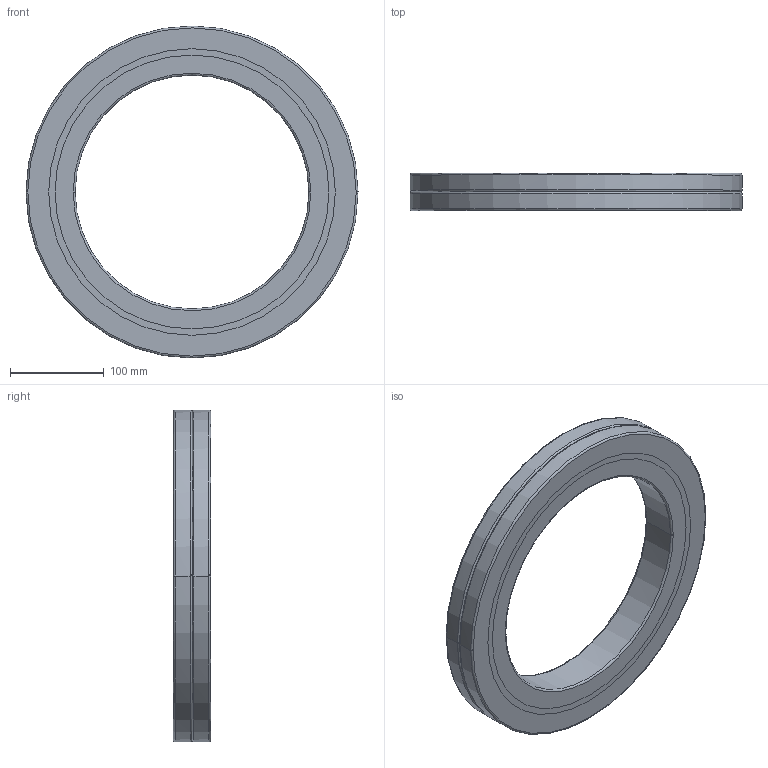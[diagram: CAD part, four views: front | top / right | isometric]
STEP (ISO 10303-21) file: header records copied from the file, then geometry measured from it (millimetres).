
FILE_DESCRIPTION(('no description'),'unknown implementation level');
FILE_NAME('CRBA25040_46.stp',' ',('HIWIN GmbH'),('CADClick - KiM GmbH - www.kimweb.de'),'unknown preprocess','ACIS','unknown authorization');
FILE_SCHEMA(('automotive_design'));
Length unit declared in the file: millimetre
Products named in the file (5): CRBA25040_1; CRBA25040_2; CRBA25040_3; CRBA25040_4; CRBA25040
Bounding box: 355 x 40 x 355 mm (x, y, z)
Volume: 1766438.4 mm3; surface area: 318568.6 mm2
Topology: 5 solids, 5 shells, 54 faces, 120 edges, 76 vertices
Faces by surface type: torus 24, cylinder 20, plane 10
Entity records: 3096 total; most frequent: DIRECTION 338, STYLED_ITEM 255, PRESENTATION_STYLE_ASSIGNMENT 255, CARTESIAN_POINT 255, COLOUR_RGB 255, ORIENTED_EDGE 240, AXIS2_PLACEMENT_3D 159, EDGE_CURVE 120
